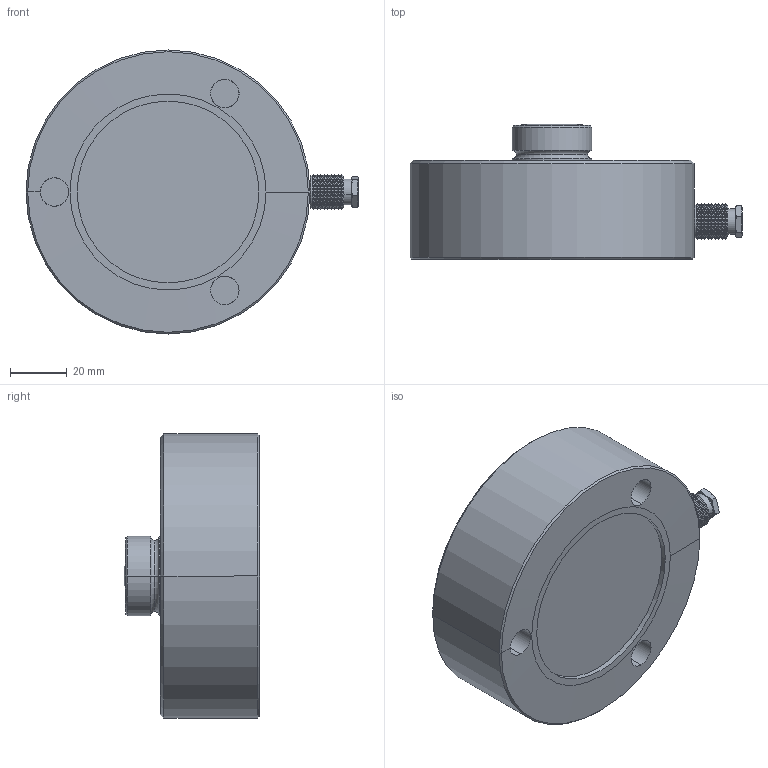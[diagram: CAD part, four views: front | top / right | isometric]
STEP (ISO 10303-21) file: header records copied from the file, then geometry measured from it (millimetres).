
FILE_DESCRIPTION((''),'1');
FILE_NAME('LKLC_30000_kg.step','2024-11-20T10:58:39',(''),(''),'','','');
FILE_SCHEMA(('AUTOMOTIVE_DESIGN { 1 0 10303 214 1 1 1 1 }'));
Length unit declared in the file: metre
Products named in the file (3): LKLC 30000_kg; LKLC body 01; LKLC cable gland 01
Assembly tree (2 placements, depth 2):
  LKLC 30000_kg
    LKLC body 01
    LKLC cable gland 01
Bounding box: 116.88 x 47.81 x 100 mm (x, y, z)
Volume: 271039.8 mm3; surface area: 31413.3 mm2
Topology: 2 solids, 2 shells, 142 faces, 288 edges, 159 vertices
Faces by surface type: cone 64, torus 36, cylinder 22, plane 19, sphere 1
Entity records: 4191 total; most frequent: CARTESIAN_POINT 1090, DIRECTION 721, ORIENTED_EDGE 576, AXIS2_PLACEMENT_3D 320, EDGE_CURVE 288, CIRCLE 175, VERTEX_POINT 159, EDGE_LOOP 151
